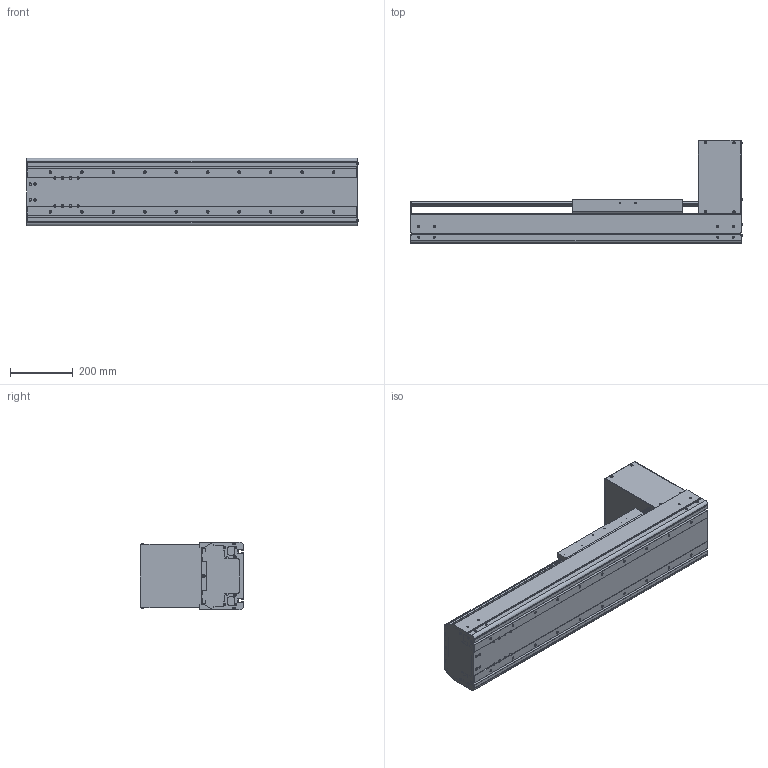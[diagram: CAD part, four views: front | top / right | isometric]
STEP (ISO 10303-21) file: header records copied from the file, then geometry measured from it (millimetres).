
FILE_DESCRIPTION((''),'2;1');
FILE_NAME('BE60J-BT-L19N-45_IGS_PRT','2017-06-18T',(' '),(''),'PRO/ENGINEER BY PARAMETRIC TECHNOLOGY CORPORATION, 2015030','PRO/ENGINEER BY PARAMETRIC TECHNOLOGY CORPORATION, 2015030','');
FILE_SCHEMA(('CONFIG_CONTROL_DESIGN'));
Products named in the file (1): BE60J-BT-L19N-45_IGS_PRT
Bounding box: 1054.4 x 327.5 x 214 mm (x, y, z)
Volume: 7799807.5 mm3; surface area: 2642411 mm2
Topology: 1 solids, 185 shells, 1896 faces, 5246 edges, 3465 vertices
Faces by surface type: cylinder 868, plane 788, cone 144, torus 48, sphere 48
Entity records: 62268 total; most frequent: CARTESIAN_POINT 13680, DIRECTION 10267, ORIENTED_EDGE 9564, EDGE_CURVE 5120, AXIS2_PLACEMENT_3D 3807, VERTEX_POINT 3452, VECTOR 2653, LINE 2653
